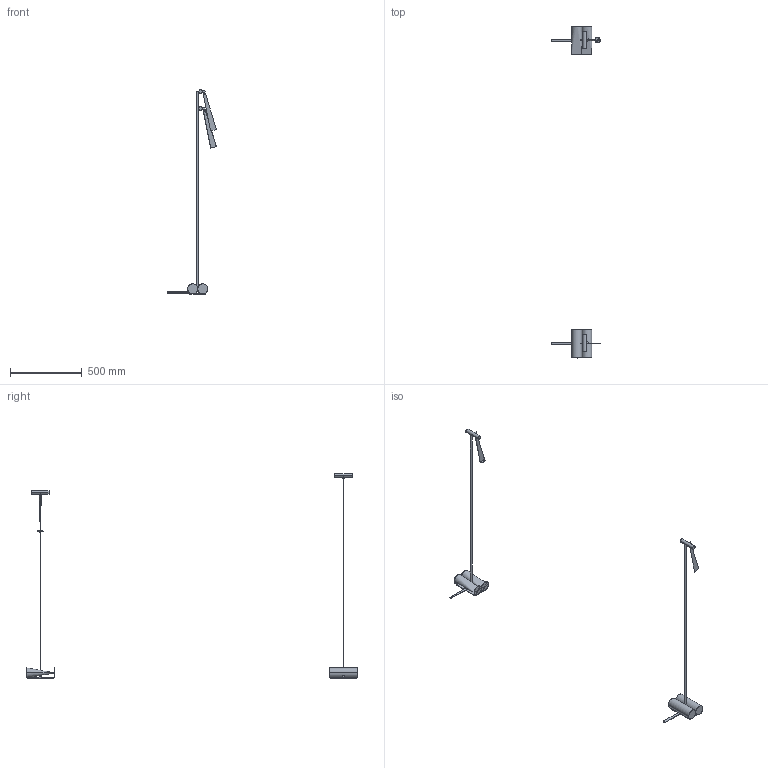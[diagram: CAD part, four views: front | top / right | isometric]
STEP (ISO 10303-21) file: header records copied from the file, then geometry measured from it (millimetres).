
FILE_DESCRIPTION(/* description */ (''),/* implementation_level */ '2;1');
FILE_NAME(/* name */ 'Snake Floor Lamp',/* time_stamp */ '2025-10-02T10:33:26+02:00',/* author */ (''),/* organization */ (''),/* preprocessor_version */ 'ST-DEVELOPER v16.5',/* originating_system */ 'Rhino 7.38',/* authorisation */ '');
FILE_SCHEMA (('CONFIG_CONTROL_DESIGN'));
Length unit declared in the file: millimetre
Products named in the file (1): Document
Bounding box: 339.98 x 2307.77 x 1423.04 mm (x, y, z)
Topology: 15 solids, 24 shells, 118 faces, 219 edges, 137 vertices
Faces by surface type: plane 42, bspline 40, cylinder 36
Full cylindrical faces by diameter (mm): 70 x1
Entity records: 3618 total; most frequent: CARTESIAN_POINT 2084, ORIENTED_EDGE 415, EDGE_CURVE 218, VERTEX_POINT 134, EDGE_LOOP 119, ADVANCED_FACE 118, FACE_OUTER_BOUND 118, DIRECTION 86
